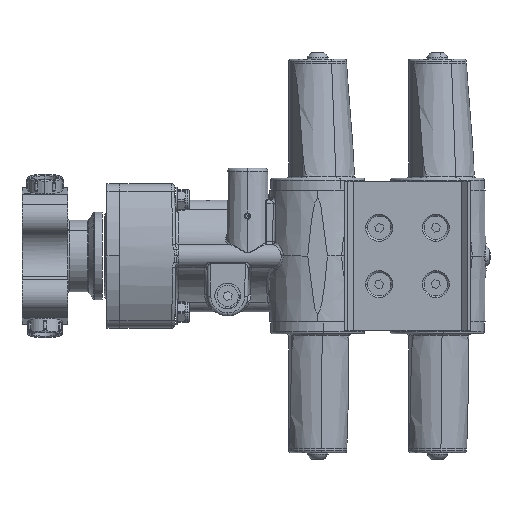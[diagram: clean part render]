
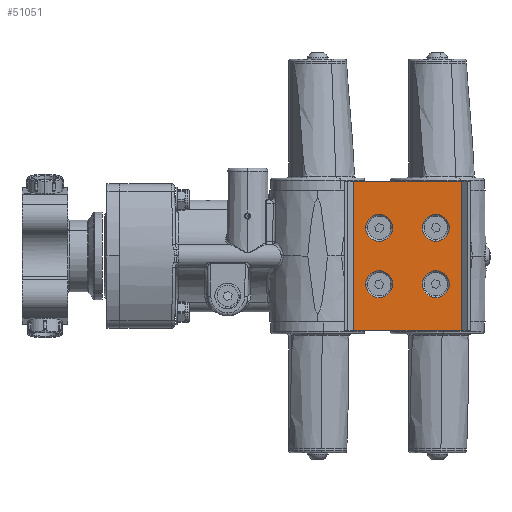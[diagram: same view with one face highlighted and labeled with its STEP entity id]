
A CAD part, left-side view. The second image highlights one B-rep face of the part: STEP entity #51051.
In plain terms, the highlighted planar face has unit normal (-1, 0, 0).
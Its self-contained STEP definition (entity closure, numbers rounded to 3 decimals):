
#628 = VERTEX_POINT ( 'NONE', #71280 ) ;
#1156 = VERTEX_POINT ( 'NONE', #72199 ) ;
#1235 = VERTEX_POINT ( 'NONE', #71984 ) ;
#1237 = VERTEX_POINT ( 'NONE', #71860 ) ;
#1251 = VERTEX_POINT ( 'NONE', #71998 ) ;
#1281 = VERTEX_POINT ( 'NONE', #72127 ) ;
#1302 = VERTEX_POINT ( 'NONE', #72060 ) ;
#2367 = VERTEX_POINT ( 'NONE', #70691 ) ;
#2378 = VERTEX_POINT ( 'NONE', #70692 ) ;
#7320 = FACE_BOUND ( 'NONE', #49457, .T. ) ;
#7324 = FACE_OUTER_BOUND ( 'NONE', #48811, .T. ) ;
#7374 = FACE_BOUND ( 'NONE', #49361, .T. ) ;
#7382 = FACE_BOUND ( 'NONE', #48772, .T. ) ;
#7389 = FACE_BOUND ( 'NONE', #49855, .T. ) ;
#7721 = CARTESIAN_POINT ( 'NONE',  ( -51.763, -219.987, 37.5 ) ) ;
#7723 = PLANE ( 'NONE',  #8817 ) ;
#7753 = DIRECTION ( 'NONE',  ( -1., 0., 0. ) ) ;
#7755 = DIRECTION ( 'NONE',  ( 0., 0., 1. ) ) ;
#8817 = AXIS2_PLACEMENT_3D ( 'NONE', #7721, #7753, #7755 ) ;
#16140 = VERTEX_POINT ( 'NONE', #52683 ) ;
#17065 = VERTEX_POINT ( 'NONE', #28386 ) ;
#17232 = VERTEX_POINT ( 'NONE', #29602 ) ;
#28135 = ORIENTED_EDGE ( 'NONE', *, *, #44157, .T. ) ;
#28386 = CARTESIAN_POINT ( 'NONE',  ( -51.763, -166.012, -37.5 ) ) ;
#28404 = ORIENTED_EDGE ( 'NONE', *, *, #44037, .F. ) ;
#28434 = ORIENTED_EDGE ( 'NONE', *, *, #44446, .T. ) ;
#28437 = ORIENTED_EDGE ( 'NONE', *, *, #44121, .T. ) ;
#28448 = ORIENTED_EDGE ( 'NONE', *, *, #44468, .T. ) ;
#29169 = ORIENTED_EDGE ( 'NONE', *, *, #44127, .F. ) ;
#29176 = ORIENTED_EDGE ( 'NONE', *, *, #44477, .T. ) ;
#29178 = ORIENTED_EDGE ( 'NONE', *, *, #44274, .T. ) ;
#29180 = ORIENTED_EDGE ( 'NONE', *, *, #43955, .T. ) ;
#29602 = CARTESIAN_POINT ( 'NONE',  ( -51.763, -185.608, 14.142 ) ) ;
#35099 = AXIS2_PLACEMENT_3D ( 'NONE', #44252, #44142, #44129 ) ;
#35106 = AXIS2_PLACEMENT_3D ( 'NONE', #43107, #43080, #43079 ) ;
#35116 = AXIS2_PLACEMENT_3D ( 'NONE', #43057, #44452, #43138 ) ;
#35126 = AXIS2_PLACEMENT_3D ( 'NONE', #43564, #43563, #43558 ) ;
#35183 = AXIS2_PLACEMENT_3D ( 'NONE', #60370, #60373, #60343 ) ;
#35186 = AXIS2_PLACEMENT_3D ( 'NONE', #60389, #60391, #60392 ) ;
#35191 = AXIS2_PLACEMENT_3D ( 'NONE', #60349, #60274, #60172 ) ;
#35192 = AXIS2_PLACEMENT_3D ( 'NONE', #60278, #60305, #60276 ) ;
#43041 = CARTESIAN_POINT ( 'NONE',  ( -51.763, -166.012, 37.5 ) ) ;
#43057 = CARTESIAN_POINT ( 'NONE',  ( -51.763, -207.142, -14.142 ) ) ;
#43060 = CARTESIAN_POINT ( 'NONE',  ( -51.763, -219.987, -37.5 ) ) ;
#43062 = DIRECTION ( 'NONE',  ( 0., 1., 0. ) ) ;
#43079 = DIRECTION ( 'NONE',  ( 0., 0., 1. ) ) ;
#43080 = DIRECTION ( 'NONE',  ( 1., 0., 0. ) ) ;
#43107 = CARTESIAN_POINT ( 'NONE',  ( -51.763, -178.858, -14.142 ) ) ;
#43138 = DIRECTION ( 'NONE',  ( 0., 0., 1. ) ) ;
#43558 = DIRECTION ( 'NONE',  ( 0., 0., 1. ) ) ;
#43563 = DIRECTION ( 'NONE',  ( 1., 0., 0. ) ) ;
#43564 = CARTESIAN_POINT ( 'NONE',  ( -51.763, -178.858, 14.142 ) ) ;
#43955 = EDGE_CURVE ( 'NONE', #16140, #1237, #54862, .T. ) ;
#44037 = EDGE_CURVE ( 'NONE', #16140, #628, #55082, .T. ) ;
#44053 = EDGE_CURVE ( 'NONE', #1302, #2367, #54880, .T. ) ;
#44084 = EDGE_CURVE ( 'NONE', #1235, #1156, #54739, .T. ) ;
#44121 = EDGE_CURVE ( 'NONE', #1251, #2378, #55057, .T. ) ;
#44127 = EDGE_CURVE ( 'NONE', #628, #17065, #54924, .T. ) ;
#44129 = DIRECTION ( 'NONE',  ( 0., 0., 1. ) ) ;
#44142 = DIRECTION ( 'NONE',  ( 1., 0., 0. ) ) ;
#44157 = EDGE_CURVE ( 'NONE', #1281, #17232, #54730, .T. ) ;
#44239 = DIRECTION ( 'NONE',  ( 0., 0., -1. ) ) ;
#44252 = CARTESIAN_POINT ( 'NONE',  ( -51.763, -207.142, 14.142 ) ) ;
#44262 = DIRECTION ( 'NONE',  ( 0., 0., -1. ) ) ;
#44274 = EDGE_CURVE ( 'NONE', #1237, #17065, #55357, .T. ) ;
#44281 = CARTESIAN_POINT ( 'NONE',  ( -51.763, -219.987, 37.5 ) ) ;
#44319 = CARTESIAN_POINT ( 'NONE',  ( -51.763, -219.987, 37.5 ) ) ;
#44369 = DIRECTION ( 'NONE',  ( 0., 1., 0. ) ) ;
#44431 = EDGE_CURVE ( 'NONE', #2367, #1302, #54567, .T. ) ;
#44446 = EDGE_CURVE ( 'NONE', #1156, #1235, #54742, .T. ) ;
#44452 = DIRECTION ( 'NONE',  ( 1., 0., 0. ) ) ;
#44468 = EDGE_CURVE ( 'NONE', #2378, #1251, #54767, .T. ) ;
#44477 = EDGE_CURVE ( 'NONE', #17232, #1281, #54843, .T. ) ;
#48772 = EDGE_LOOP ( 'NONE', ( #28434, #69741 ) ) ;
#48811 = EDGE_LOOP ( 'NONE', ( #29169, #28404, #29180, #29178 ) ) ;
#49361 = EDGE_LOOP ( 'NONE', ( #28448, #28437 ) ) ;
#49457 = EDGE_LOOP ( 'NONE', ( #78515, #69661 ) ) ;
#49855 = EDGE_LOOP ( 'NONE', ( #29176, #28135 ) ) ;
#51051 = ADVANCED_FACE ( 'NONE', ( #7320, #7374, #7382, #7389, #7324 ), #7723, .T. ) ;
#52683 = CARTESIAN_POINT ( 'NONE',  ( -51.763, -219.987, 37.5 ) ) ;
#54567 = CIRCLE ( 'NONE', #35183, 6.75 ) ;
#54727 = VECTOR ( 'NONE', #44369, 1000. ) ;
#54730 = CIRCLE ( 'NONE', #35126, 6.75 ) ;
#54739 = CIRCLE ( 'NONE', #35106, 6.75 ) ;
#54742 = CIRCLE ( 'NONE', #35186, 6.75 ) ;
#54767 = CIRCLE ( 'NONE', #35191, 6.75 ) ;
#54843 = CIRCLE ( 'NONE', #35192, 6.75 ) ;
#54862 = LINE ( 'NONE', #44319, #54727 ) ;
#54880 = CIRCLE ( 'NONE', #35099, 6.75 ) ;
#54924 = LINE ( 'NONE', #43060, #55013 ) ;
#54992 = VECTOR ( 'NONE', #44239, 1000. ) ;
#55013 = VECTOR ( 'NONE', #43062, 1000. ) ;
#55057 = CIRCLE ( 'NONE', #35116, 6.75 ) ;
#55082 = LINE ( 'NONE', #44281, #54992 ) ;
#55357 = LINE ( 'NONE', #43041, #55359 ) ;
#55359 = VECTOR ( 'NONE', #44262, 1000. ) ;
#60172 = DIRECTION ( 'NONE',  ( 0., 0., 1. ) ) ;
#60274 = DIRECTION ( 'NONE',  ( 1., 0., 0. ) ) ;
#60276 = DIRECTION ( 'NONE',  ( 0., 0., 1. ) ) ;
#60278 = CARTESIAN_POINT ( 'NONE',  ( -51.763, -178.858, 14.142 ) ) ;
#60305 = DIRECTION ( 'NONE',  ( 1., 0., 0. ) ) ;
#60343 = DIRECTION ( 'NONE',  ( 0., 0., 1. ) ) ;
#60349 = CARTESIAN_POINT ( 'NONE',  ( -51.763, -207.142, -14.142 ) ) ;
#60370 = CARTESIAN_POINT ( 'NONE',  ( -51.763, -207.142, 14.142 ) ) ;
#60373 = DIRECTION ( 'NONE',  ( 1., 0., 0. ) ) ;
#60389 = CARTESIAN_POINT ( 'NONE',  ( -51.763, -178.858, -14.142 ) ) ;
#60391 = DIRECTION ( 'NONE',  ( 1., 0., 0. ) ) ;
#60392 = DIRECTION ( 'NONE',  ( 0., 0., 1. ) ) ;
#69661 = ORIENTED_EDGE ( 'NONE', *, *, #44053, .T. ) ;
#69741 = ORIENTED_EDGE ( 'NONE', *, *, #44084, .T. ) ;
#70691 = CARTESIAN_POINT ( 'NONE',  ( -51.763, -207.142, 20.892 ) ) ;
#70692 = CARTESIAN_POINT ( 'NONE',  ( -51.763, -207.142, -7.392 ) ) ;
#71280 = CARTESIAN_POINT ( 'NONE',  ( -51.763, -219.987, -37.5 ) ) ;
#71860 = CARTESIAN_POINT ( 'NONE',  ( -51.763, -166.012, 37.5 ) ) ;
#71984 = CARTESIAN_POINT ( 'NONE',  ( -51.763, -172.108, -14.142 ) ) ;
#71998 = CARTESIAN_POINT ( 'NONE',  ( -51.763, -207.142, -20.892 ) ) ;
#72060 = CARTESIAN_POINT ( 'NONE',  ( -51.763, -207.142, 7.392 ) ) ;
#72127 = CARTESIAN_POINT ( 'NONE',  ( -51.763, -172.108, 14.142 ) ) ;
#72199 = CARTESIAN_POINT ( 'NONE',  ( -51.763, -185.608, -14.142 ) ) ;
#78515 = ORIENTED_EDGE ( 'NONE', *, *, #44431, .T. ) ;
